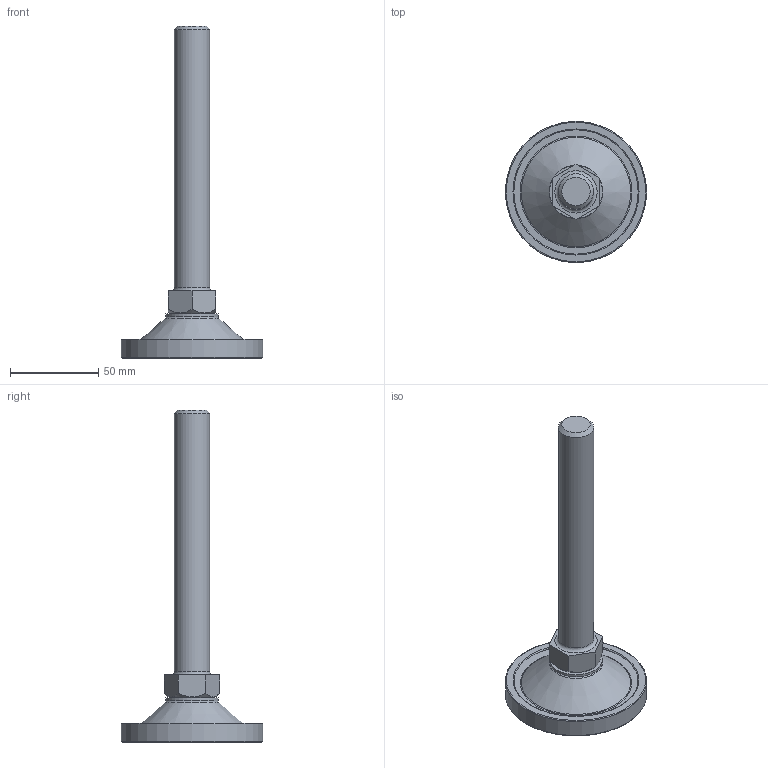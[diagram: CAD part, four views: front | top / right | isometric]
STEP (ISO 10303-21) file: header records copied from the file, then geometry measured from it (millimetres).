
FILE_DESCRIPTION(/* description */ (''),/* implementation_level */ '2;1');
FILE_NAME(/* name */ 'D:\조절자\PFR\PFR-M20-150L.stp',/* time_stamp */ '2016-03-14T15:08:37+09:00',/* author */ ('GS-DT-1-001'),/* organization */ (''),/* preprocessor_version */ 'ST-DEVELOPER v15.6',/* originating_system */ 'Autodesk Inventor LT ',/* authorisation */ '');
FILE_SCHEMA (('AUTOMOTIVE_DESIGN { 1 0 10303 214 3 1 1 }'));
Length unit declared in the file: millimetre
Products named in the file (1): PFR-M20-150L
Bounding box: 80 x 80 x 188 mm (x, y, z)
Volume: 100414.7 mm3; surface area: 39172.5 mm2
Topology: 4 solids, 4 shells, 71 faces, 132 edges, 81 vertices
Faces by surface type: plane 26, torus 24, cone 12, cylinder 9
Full cylindrical faces by diameter (mm): 5 x1, 7.153 x1, 8.2 x1, 8.8 x1, 20 x1, 30 x1, 74 x1, 74.4 x1, 80 x1
Entity records: 1509 total; most frequent: DIRECTION 282, CARTESIAN_POINT 240, ORIENTED_EDGE 162, AXIS2_PLACEMENT_3D 135, EDGE_LOOP 134, EDGE_CURVE 81, VERTEX_POINT 75, FACE_OUTER_BOUND 71
